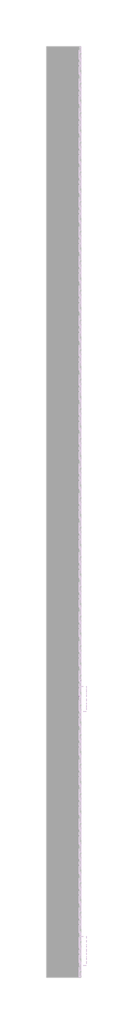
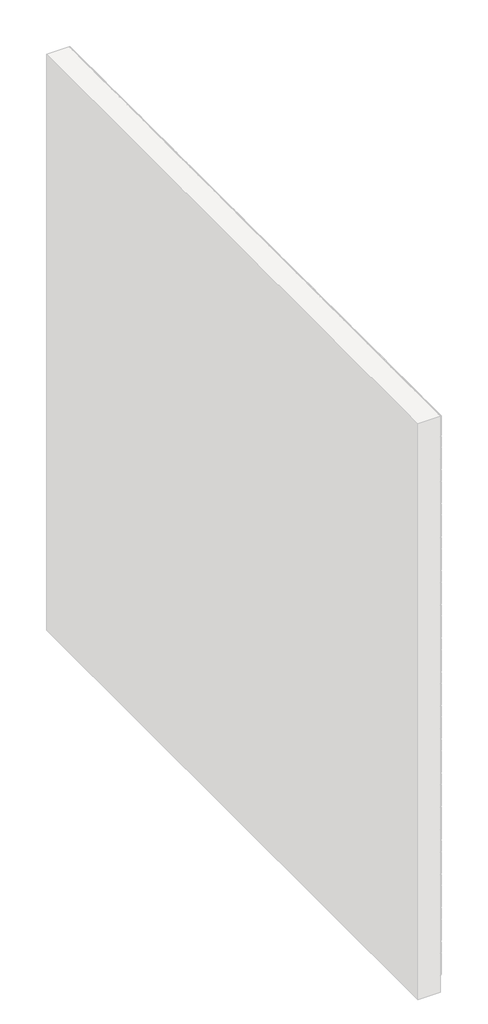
# One storey, part 11 of 121: 145 proxies.
"""IFC4 building model written with IfcOpenShell, lengths in millimetres."""

from ifc_helpers import new_model, si_unit, origin, place, context, project, spatial, transform, mapped, element, save
from components import generic_models_b2b2c5c1, generic_models_9bf73f6f, generic_models_5d175859

model = new_model("IFC4")

# Units and contexts
model_context = context("Model", 3, world=origin())
ifc_project = project(units=[si_unit("LENGTHUNIT", "METRE", prefix="MILLI")], contexts=[model_context])

# Site, building, storey
site = spatial("IfcSite", under=ifc_project)
building = spatial("IfcBuilding", under=site)
storey = spatial("IfcBuildingStorey", under=building, Name="PORTOBELLO - SHOWROOM", Elevation=0.0)

# Proxies
placement = place(None, origin())
generic_models_shape = generic_models_b2b2c5c1(model_context)
element("IfcBuildingElementProxy", 1, Name="PBSHOP - CUBICA ARGENTO 4,8X8,3 : CUBICA ARGENTO - POSIÇÃO 01", ObjectType="PBSHOP - CUBICA ARGENTO 4,8X8,3 : CUBICA ARGENTO - POSIÇÃO 01", at=placement, inside=storey, context=model_context, shape_type="MappedRepresentation", body=[
    mapped(generic_models_shape, transform((150369.5341846, -5631.3184659, 2170.6574029), x_axis=(0.0, 1.0, 0.0), y_axis=(0.0, 0.0, 1.0), z_axis=(1.0, 0.0, 0.0))),
])
element("IfcBuildingElementProxy", 2, Name="PBSHOP - CUBICA ARGENTO 4,8X8,3 : CUBICA ARGENTO - POSIÇÃO 01", ObjectType="PBSHOP - CUBICA ARGENTO 4,8X8,3 : CUBICA ARGENTO - POSIÇÃO 01", at=placement, inside=storey, context=model_context, shape_type="MappedRepresentation", body=[
    mapped(generic_models_shape, transform((150369.5341846, -5540.4791966, 2170.6574029), x_axis=(0.0, 1.0, 0.0), y_axis=(0.0, 0.0, 1.0), z_axis=(1.0, 0.0, 0.0))),
])
element("IfcBuildingElementProxy", 3, Name="PBSHOP - CUBICA ARGENTO 4,8X8,3 : CUBICA ARGENTO - POSIÇÃO 01", ObjectType="PBSHOP - CUBICA ARGENTO 4,8X8,3 : CUBICA ARGENTO - POSIÇÃO 01", at=placement, inside=storey, context=model_context, shape_type="MappedRepresentation", body=[
    mapped(generic_models_shape, transform((150369.5341846, -5449.6399274, 2170.6574029), x_axis=(0.0, 1.0, 0.0), y_axis=(0.0, 0.0, 1.0), z_axis=(1.0, 0.0, 0.0))),
])
element("IfcBuildingElementProxy", 4, Name="PBSHOP - CUBICA ARGENTO 4,8X8,3 : CUBICA ARGENTO - POSIÇÃO 01", ObjectType="PBSHOP - CUBICA ARGENTO 4,8X8,3 : CUBICA ARGENTO - POSIÇÃO 01", at=placement, inside=storey, context=model_context, shape_type="MappedRepresentation", body=[
    mapped(generic_models_shape, transform((150369.5341846, -5358.8006581, 2170.6574029), x_axis=(0.0, 1.0, 0.0), y_axis=(0.0, 0.0, 1.0), z_axis=(1.0, 0.0, 0.0))),
])
element("IfcBuildingElementProxy", 5, Name="PBSHOP - CUBICA ARGENTO 4,8X8,3 : CUBICA ARGENTO - POSIÇÃO 01", ObjectType="PBSHOP - CUBICA ARGENTO 4,8X8,3 : CUBICA ARGENTO - POSIÇÃO 01", at=placement, inside=storey, context=model_context, shape_type="MappedRepresentation", body=[
    mapped(generic_models_shape, transform((150369.5341846, -5267.9613889, 2170.6574029), x_axis=(0.0, 1.0, 0.0), y_axis=(0.0, 0.0, 1.0), z_axis=(1.0, 0.0, 0.0))),
])
element("IfcBuildingElementProxy", 6, Name="PBSHOP - CUBICA ARGENTO 4,8X8,3 : CUBICA ARGENTO - POSIÇÃO 01", ObjectType="PBSHOP - CUBICA ARGENTO 4,8X8,3 : CUBICA ARGENTO - POSIÇÃO 01", at=placement, inside=storey, context=model_context, shape_type="MappedRepresentation", body=[
    mapped(generic_models_shape, transform((150369.5341846, -5177.1221196, 2170.6574029), x_axis=(0.0, 1.0, 0.0), y_axis=(0.0, 0.0, 1.0), z_axis=(1.0, 0.0, 0.0))),
])
element("IfcBuildingElementProxy", 7, Name="PBSHOP - CUBICA ARGENTO 4,8X8,3 : CUBICA ARGENTO - POSIÇÃO 01", ObjectType="PBSHOP - CUBICA ARGENTO 4,8X8,3 : CUBICA ARGENTO - POSIÇÃO 01", at=placement, inside=storey, context=model_context, shape_type="MappedRepresentation", body=[
    mapped(generic_models_shape, transform((150369.5341846, -5086.2828504, 2170.6574029), x_axis=(0.0, 1.0, 0.0), y_axis=(0.0, 0.0, 1.0), z_axis=(1.0, 0.0, 0.0))),
])
element("IfcBuildingElementProxy", 8, Name="PBSHOP - CUBICA ARGENTO 4,8X8,3 : CUBICA ARGENTO - POSIÇÃO 01", ObjectType="PBSHOP - CUBICA ARGENTO 4,8X8,3 : CUBICA ARGENTO - POSIÇÃO 01", at=placement, inside=storey, context=model_context, shape_type="MappedRepresentation", body=[
    mapped(generic_models_shape, transform((150369.5341846, -5949.2559082, 2249.5920413), x_axis=(0.0, 1.0, 0.0), y_axis=(0.0, 0.0, 1.0), z_axis=(1.0, 0.0, 0.0))),
])
element("IfcBuildingElementProxy", 9, Name="PBSHOP - CUBICA ARGENTO 4,8X8,3 : CUBICA ARGENTO - POSIÇÃO 01", ObjectType="PBSHOP - CUBICA ARGENTO 4,8X8,3 : CUBICA ARGENTO - POSIÇÃO 01", at=placement, inside=storey, context=model_context, shape_type="MappedRepresentation", body=[
    mapped(generic_models_shape, transform((150369.5341846, -5858.416639, 2249.5920413), x_axis=(0.0, 1.0, 0.0), y_axis=(0.0, 0.0, 1.0), z_axis=(1.0, 0.0, 0.0))),
])
element("IfcBuildingElementProxy", 10, Name="PBSHOP - CUBICA ARGENTO 4,8X8,3 : CUBICA ARGENTO - POSIÇÃO 01", ObjectType="PBSHOP - CUBICA ARGENTO 4,8X8,3 : CUBICA ARGENTO - POSIÇÃO 01", at=placement, inside=storey, context=model_context, shape_type="MappedRepresentation", body=[
    mapped(generic_models_shape, transform((150369.5341846, -5767.5773697, 2249.5920413), x_axis=(0.0, 1.0, 0.0), y_axis=(0.0, 0.0, 1.0), z_axis=(1.0, 0.0, 0.0))),
])
element("IfcBuildingElementProxy", 11, Name="PBSHOP - CUBICA ARGENTO 4,8X8,3 : CUBICA ARGENTO - POSIÇÃO 01", ObjectType="PBSHOP - CUBICA ARGENTO 4,8X8,3 : CUBICA ARGENTO - POSIÇÃO 01", at=placement, inside=storey, context=model_context, shape_type="MappedRepresentation", body=[
    mapped(generic_models_shape, transform((150369.5341846, -5676.7381005, 2249.5920413), x_axis=(0.0, 1.0, 0.0), y_axis=(0.0, 0.0, 1.0), z_axis=(1.0, 0.0, 0.0))),
])
element("IfcBuildingElementProxy", 12, Name="PBSHOP - CUBICA ARGENTO 4,8X8,3 : CUBICA ARGENTO - POSIÇÃO 01", ObjectType="PBSHOP - CUBICA ARGENTO 4,8X8,3 : CUBICA ARGENTO - POSIÇÃO 01", at=placement, inside=storey, context=model_context, shape_type="MappedRepresentation", body=[
    mapped(generic_models_shape, transform((150369.5341846, -5585.8988312, 2249.5920413), x_axis=(0.0, 1.0, 0.0), y_axis=(0.0, 0.0, 1.0), z_axis=(1.0, 0.0, 0.0))),
])
element("IfcBuildingElementProxy", 13, Name="PBSHOP - CUBICA ARGENTO 4,8X8,3 : CUBICA ARGENTO - POSIÇÃO 01", ObjectType="PBSHOP - CUBICA ARGENTO 4,8X8,3 : CUBICA ARGENTO - POSIÇÃO 01", at=placement, inside=storey, context=model_context, shape_type="MappedRepresentation", body=[
    mapped(generic_models_shape, transform((150369.5341846, -5495.059562, 2249.5920413), x_axis=(0.0, 1.0, 0.0), y_axis=(0.0, 0.0, 1.0), z_axis=(1.0, 0.0, 0.0))),
])
element("IfcBuildingElementProxy", 14, Name="PBSHOP - CUBICA ARGENTO 4,8X8,3 : CUBICA ARGENTO - POSIÇÃO 01", ObjectType="PBSHOP - CUBICA ARGENTO 4,8X8,3 : CUBICA ARGENTO - POSIÇÃO 01", at=placement, inside=storey, context=model_context, shape_type="MappedRepresentation", body=[
    mapped(generic_models_shape, transform((150369.5341846, -5404.2202927, 2249.5920413), x_axis=(0.0, 1.0, 0.0), y_axis=(0.0, 0.0, 1.0), z_axis=(1.0, 0.0, 0.0))),
])
element("IfcBuildingElementProxy", 15, Name="PBSHOP - CUBICA ARGENTO 4,8X8,3 : CUBICA ARGENTO - POSIÇÃO 01", ObjectType="PBSHOP - CUBICA ARGENTO 4,8X8,3 : CUBICA ARGENTO - POSIÇÃO 01", at=placement, inside=storey, context=model_context, shape_type="MappedRepresentation", body=[
    mapped(generic_models_shape, transform((150369.5341846, -5313.3810235, 2249.5920413), x_axis=(0.0, 1.0, 0.0), y_axis=(0.0, 0.0, 1.0), z_axis=(1.0, 0.0, 0.0))),
])
element("IfcBuildingElementProxy", 16, Name="PBSHOP - CUBICA ARGENTO 4,8X8,3 : CUBICA ARGENTO - POSIÇÃO 01", ObjectType="PBSHOP - CUBICA ARGENTO 4,8X8,3 : CUBICA ARGENTO - POSIÇÃO 01", at=placement, inside=storey, context=model_context, shape_type="MappedRepresentation", body=[
    mapped(generic_models_shape, transform((150369.5341846, -5222.5417543, 2249.5920413), x_axis=(0.0, 1.0, 0.0), y_axis=(0.0, 0.0, 1.0), z_axis=(1.0, 0.0, 0.0))),
])
element("IfcBuildingElementProxy", 17, Name="PBSHOP - CUBICA ARGENTO 4,8X8,3 : CUBICA ARGENTO - POSIÇÃO 01", ObjectType="PBSHOP - CUBICA ARGENTO 4,8X8,3 : CUBICA ARGENTO - POSIÇÃO 01", at=placement, inside=storey, context=model_context, shape_type="MappedRepresentation", body=[
    mapped(generic_models_shape, transform((150369.5341846, -5131.702485, 2249.5920413), x_axis=(0.0, 1.0, 0.0), y_axis=(0.0, 0.0, 1.0), z_axis=(1.0, 0.0, 0.0))),
])
element("IfcBuildingElementProxy", 18, Name="PBSHOP - CUBICA ARGENTO 4,8X8,3 : CUBICA ARGENTO - POSIÇÃO 01", ObjectType="PBSHOP - CUBICA ARGENTO 4,8X8,3 : CUBICA ARGENTO - POSIÇÃO 01", at=placement, inside=storey, context=model_context, shape_type="MappedRepresentation", body=[
    mapped(generic_models_shape, transform((150369.5341846, -5040.8632158, 2249.5920413), x_axis=(0.0, 1.0, 0.0), y_axis=(0.0, 0.0, 1.0), z_axis=(1.0, 0.0, 0.0))),
])
element("IfcBuildingElementProxy", 19, Name="PBSHOP - CUBICA ARGENTO 4,8X8,3 : CUBICA ARGENTO - POSIÇÃO 01", ObjectType="PBSHOP - CUBICA ARGENTO 4,8X8,3 : CUBICA ARGENTO - POSIÇÃO 01", at=placement, inside=storey, context=model_context, shape_type="MappedRepresentation", body=[
    mapped(generic_models_shape, transform((150369.5341846, -5994.6755428, 2328.5266797), x_axis=(0.0, 1.0, 0.0), y_axis=(0.0, 0.0, 1.0), z_axis=(1.0, 0.0, 0.0))),
])
element("IfcBuildingElementProxy", 20, Name="PBSHOP - CUBICA ARGENTO 4,8X8,3 : CUBICA ARGENTO - POSIÇÃO 01", ObjectType="PBSHOP - CUBICA ARGENTO 4,8X8,3 : CUBICA ARGENTO - POSIÇÃO 01", at=placement, inside=storey, context=model_context, shape_type="MappedRepresentation", body=[
    mapped(generic_models_shape, transform((150369.5341846, -5903.8362736, 2328.5266797), x_axis=(0.0, 1.0, 0.0), y_axis=(0.0, 0.0, 1.0), z_axis=(1.0, 0.0, 0.0))),
])
element("IfcBuildingElementProxy", 21, Name="PBSHOP - CUBICA ARGENTO 4,8X8,3 : CUBICA ARGENTO - POSIÇÃO 01", ObjectType="PBSHOP - CUBICA ARGENTO 4,8X8,3 : CUBICA ARGENTO - POSIÇÃO 01", at=placement, inside=storey, context=model_context, shape_type="MappedRepresentation", body=[
    mapped(generic_models_shape, transform((150369.5341846, -5812.9970043, 2328.5266797), x_axis=(0.0, 1.0, 0.0), y_axis=(0.0, 0.0, 1.0), z_axis=(1.0, 0.0, 0.0))),
])
element("IfcBuildingElementProxy", 22, Name="PBSHOP - CUBICA ARGENTO 4,8X8,3 : CUBICA ARGENTO - POSIÇÃO 01", ObjectType="PBSHOP - CUBICA ARGENTO 4,8X8,3 : CUBICA ARGENTO - POSIÇÃO 01", at=placement, inside=storey, context=model_context, shape_type="MappedRepresentation", body=[
    mapped(generic_models_shape, transform((150369.5341846, -5722.1577351, 2328.5266797), x_axis=(0.0, 1.0, 0.0), y_axis=(0.0, 0.0, 1.0), z_axis=(1.0, 0.0, 0.0))),
])
element("IfcBuildingElementProxy", 23, Name="PBSHOP - CUBICA ARGENTO 4,8X8,3 : CUBICA ARGENTO - POSIÇÃO 01", ObjectType="PBSHOP - CUBICA ARGENTO 4,8X8,3 : CUBICA ARGENTO - POSIÇÃO 01", at=placement, inside=storey, context=model_context, shape_type="MappedRepresentation", body=[
    mapped(generic_models_shape, transform((150369.5341846, -5631.3184659, 2328.5266797), x_axis=(0.0, 1.0, 0.0), y_axis=(0.0, 0.0, 1.0), z_axis=(1.0, 0.0, 0.0))),
])
element("IfcBuildingElementProxy", 24, Name="PBSHOP - CUBICA ARGENTO 4,8X8,3 : CUBICA ARGENTO - POSIÇÃO 01", ObjectType="PBSHOP - CUBICA ARGENTO 4,8X8,3 : CUBICA ARGENTO - POSIÇÃO 01", at=placement, inside=storey, context=model_context, shape_type="MappedRepresentation", body=[
    mapped(generic_models_shape, transform((150369.5341846, -5540.4791966, 2328.5266797), x_axis=(0.0, 1.0, 0.0), y_axis=(0.0, 0.0, 1.0), z_axis=(1.0, 0.0, 0.0))),
])
element("IfcBuildingElementProxy", 25, Name="PBSHOP - CUBICA ARGENTO 4,8X8,3 : CUBICA ARGENTO - POSIÇÃO 01", ObjectType="PBSHOP - CUBICA ARGENTO 4,8X8,3 : CUBICA ARGENTO - POSIÇÃO 01", at=placement, inside=storey, context=model_context, shape_type="MappedRepresentation", body=[
    mapped(generic_models_shape, transform((150369.5341846, -5449.6399274, 2328.5266797), x_axis=(0.0, 1.0, 0.0), y_axis=(0.0, 0.0, 1.0), z_axis=(1.0, 0.0, 0.0))),
])
element("IfcBuildingElementProxy", 26, Name="PBSHOP - CUBICA ARGENTO 4,8X8,3 : CUBICA ARGENTO - POSIÇÃO 01", ObjectType="PBSHOP - CUBICA ARGENTO 4,8X8,3 : CUBICA ARGENTO - POSIÇÃO 01", at=placement, inside=storey, context=model_context, shape_type="MappedRepresentation", body=[
    mapped(generic_models_shape, transform((150369.5341846, -5358.8006581, 2328.5266797), x_axis=(0.0, 1.0, 0.0), y_axis=(0.0, 0.0, 1.0), z_axis=(1.0, 0.0, 0.0))),
])
element("IfcBuildingElementProxy", 27, Name="PBSHOP - CUBICA ARGENTO 4,8X8,3 : CUBICA ARGENTO - POSIÇÃO 01", ObjectType="PBSHOP - CUBICA ARGENTO 4,8X8,3 : CUBICA ARGENTO - POSIÇÃO 01", at=placement, inside=storey, context=model_context, shape_type="MappedRepresentation", body=[
    mapped(generic_models_shape, transform((150369.5341846, -5267.9613889, 2328.5266797), x_axis=(0.0, 1.0, 0.0), y_axis=(0.0, 0.0, 1.0), z_axis=(1.0, 0.0, 0.0))),
])
element("IfcBuildingElementProxy", 28, Name="PBSHOP - CUBICA ARGENTO 4,8X8,3 : CUBICA ARGENTO - POSIÇÃO 01", ObjectType="PBSHOP - CUBICA ARGENTO 4,8X8,3 : CUBICA ARGENTO - POSIÇÃO 01", at=placement, inside=storey, context=model_context, shape_type="MappedRepresentation", body=[
    mapped(generic_models_shape, transform((150369.5341846, -5177.1221196, 2328.5266797), x_axis=(0.0, 1.0, 0.0), y_axis=(0.0, 0.0, 1.0), z_axis=(1.0, 0.0, 0.0))),
])
element("IfcBuildingElementProxy", 29, Name="PBSHOP - CUBICA ARGENTO 4,8X8,3 : CUBICA ARGENTO - POSIÇÃO 01", ObjectType="PBSHOP - CUBICA ARGENTO 4,8X8,3 : CUBICA ARGENTO - POSIÇÃO 01", at=placement, inside=storey, context=model_context, shape_type="MappedRepresentation", body=[
    mapped(generic_models_shape, transform((150369.5341846, -5086.2828504, 2328.5266797), x_axis=(0.0, 1.0, 0.0), y_axis=(0.0, 0.0, 1.0), z_axis=(1.0, 0.0, 0.0))),
])
element("IfcBuildingElementProxy", 30, Name="PBSHOP - CUBICA ARGENTO 4,8X8,3 : CUBICA ARGENTO - POSIÇÃO 01", ObjectType="PBSHOP - CUBICA ARGENTO 4,8X8,3 : CUBICA ARGENTO - POSIÇÃO 01", at=placement, inside=storey, context=model_context, shape_type="MappedRepresentation", body=[
    mapped(generic_models_shape, transform((150369.5341846, -5949.2559082, 2407.461318), x_axis=(0.0, 1.0, 0.0), y_axis=(0.0, 0.0, 1.0), z_axis=(1.0, 0.0, 0.0))),
])
element("IfcBuildingElementProxy", 31, Name="PBSHOP - CUBICA ARGENTO 4,8X8,3 : CUBICA ARGENTO - POSIÇÃO 01", ObjectType="PBSHOP - CUBICA ARGENTO 4,8X8,3 : CUBICA ARGENTO - POSIÇÃO 01", at=placement, inside=storey, context=model_context, shape_type="MappedRepresentation", body=[
    mapped(generic_models_shape, transform((150369.5341846, -5858.416639, 2407.461318), x_axis=(0.0, 1.0, 0.0), y_axis=(0.0, 0.0, 1.0), z_axis=(1.0, 0.0, 0.0))),
])
element("IfcBuildingElementProxy", 32, Name="PBSHOP - CUBICA ARGENTO 4,8X8,3 : CUBICA ARGENTO - POSIÇÃO 01", ObjectType="PBSHOP - CUBICA ARGENTO 4,8X8,3 : CUBICA ARGENTO - POSIÇÃO 01", at=placement, inside=storey, context=model_context, shape_type="MappedRepresentation", body=[
    mapped(generic_models_shape, transform((150369.5341846, -5767.5773697, 2407.461318), x_axis=(0.0, 1.0, 0.0), y_axis=(0.0, 0.0, 1.0), z_axis=(1.0, 0.0, 0.0))),
])
element("IfcBuildingElementProxy", 33, Name="PBSHOP - CUBICA ARGENTO 4,8X8,3 : CUBICA ARGENTO - POSIÇÃO 01", ObjectType="PBSHOP - CUBICA ARGENTO 4,8X8,3 : CUBICA ARGENTO - POSIÇÃO 01", at=placement, inside=storey, context=model_context, shape_type="MappedRepresentation", body=[
    mapped(generic_models_shape, transform((150369.5341846, -5676.7381005, 2407.461318), x_axis=(0.0, 1.0, 0.0), y_axis=(0.0, 0.0, 1.0), z_axis=(1.0, 0.0, 0.0))),
])
element("IfcBuildingElementProxy", 34, Name="PBSHOP - CUBICA ARGENTO 4,8X8,3 : CUBICA ARGENTO - POSIÇÃO 01", ObjectType="PBSHOP - CUBICA ARGENTO 4,8X8,3 : CUBICA ARGENTO - POSIÇÃO 01", at=placement, inside=storey, context=model_context, shape_type="MappedRepresentation", body=[
    mapped(generic_models_shape, transform((150369.5341846, -5585.8988312, 2407.461318), x_axis=(0.0, 1.0, 0.0), y_axis=(0.0, 0.0, 1.0), z_axis=(1.0, 0.0, 0.0))),
])
element("IfcBuildingElementProxy", 35, Name="PBSHOP - CUBICA ARGENTO 4,8X8,3 : CUBICA ARGENTO - POSIÇÃO 01", ObjectType="PBSHOP - CUBICA ARGENTO 4,8X8,3 : CUBICA ARGENTO - POSIÇÃO 01", at=placement, inside=storey, context=model_context, shape_type="MappedRepresentation", body=[
    mapped(generic_models_shape, transform((150369.5341846, -5495.059562, 2407.461318), x_axis=(0.0, 1.0, 0.0), y_axis=(0.0, 0.0, 1.0), z_axis=(1.0, 0.0, 0.0))),
])
element("IfcBuildingElementProxy", 36, Name="PBSHOP - CUBICA ARGENTO 4,8X8,3 : CUBICA ARGENTO - POSIÇÃO 01", ObjectType="PBSHOP - CUBICA ARGENTO 4,8X8,3 : CUBICA ARGENTO - POSIÇÃO 01", at=placement, inside=storey, context=model_context, shape_type="MappedRepresentation", body=[
    mapped(generic_models_shape, transform((150369.5341846, -5404.2202927, 2407.461318), x_axis=(0.0, 1.0, 0.0), y_axis=(0.0, 0.0, 1.0), z_axis=(1.0, 0.0, 0.0))),
])
element("IfcBuildingElementProxy", 37, Name="PBSHOP - CUBICA ARGENTO 4,8X8,3 : CUBICA ARGENTO - POSIÇÃO 01", ObjectType="PBSHOP - CUBICA ARGENTO 4,8X8,3 : CUBICA ARGENTO - POSIÇÃO 01", at=placement, inside=storey, context=model_context, shape_type="MappedRepresentation", body=[
    mapped(generic_models_shape, transform((150369.5341846, -5313.3810235, 2407.461318), x_axis=(0.0, 1.0, 0.0), y_axis=(0.0, 0.0, 1.0), z_axis=(1.0, 0.0, 0.0))),
])
element("IfcBuildingElementProxy", 38, Name="PBSHOP - CUBICA ARGENTO 4,8X8,3 : CUBICA ARGENTO - POSIÇÃO 01", ObjectType="PBSHOP - CUBICA ARGENTO 4,8X8,3 : CUBICA ARGENTO - POSIÇÃO 01", at=placement, inside=storey, context=model_context, shape_type="MappedRepresentation", body=[
    mapped(generic_models_shape, transform((150369.5341846, -5222.5417543, 2407.461318), x_axis=(0.0, 1.0, 0.0), y_axis=(0.0, 0.0, 1.0), z_axis=(1.0, 0.0, 0.0))),
])
element("IfcBuildingElementProxy", 39, Name="PBSHOP - CUBICA ARGENTO 4,8X8,3 : CUBICA ARGENTO - POSIÇÃO 01", ObjectType="PBSHOP - CUBICA ARGENTO 4,8X8,3 : CUBICA ARGENTO - POSIÇÃO 01", at=placement, inside=storey, context=model_context, shape_type="MappedRepresentation", body=[
    mapped(generic_models_shape, transform((150369.5341846, -5131.702485, 2407.461318), x_axis=(0.0, 1.0, 0.0), y_axis=(0.0, 0.0, 1.0), z_axis=(1.0, 0.0, 0.0))),
])
element("IfcBuildingElementProxy", 40, Name="PBSHOP - CUBICA ARGENTO 4,8X8,3 : CUBICA ARGENTO - POSIÇÃO 01", ObjectType="PBSHOP - CUBICA ARGENTO 4,8X8,3 : CUBICA ARGENTO - POSIÇÃO 01", at=placement, inside=storey, context=model_context, shape_type="MappedRepresentation", body=[
    mapped(generic_models_shape, transform((150369.5341846, -5040.8632158, 2407.461318), x_axis=(0.0, 1.0, 0.0), y_axis=(0.0, 0.0, 1.0), z_axis=(1.0, 0.0, 0.0))),
])
element("IfcBuildingElementProxy", 41, Name="PBSHOP - CUBICA ARGENTO 4,8X8,3 : CUBICA ARGENTO - POSIÇÃO 01", ObjectType="PBSHOP - CUBICA ARGENTO 4,8X8,3 : CUBICA ARGENTO - POSIÇÃO 01", at=placement, inside=storey, context=model_context, shape_type="MappedRepresentation", body=[
    mapped(generic_models_shape, transform((150369.5341846, -5994.6755428, 2486.3959564), x_axis=(0.0, 1.0, 0.0), y_axis=(0.0, 0.0, 1.0), z_axis=(1.0, 0.0, 0.0))),
])
element("IfcBuildingElementProxy", 42, Name="PBSHOP - CUBICA ARGENTO 4,8X8,3 : CUBICA ARGENTO - POSIÇÃO 01", ObjectType="PBSHOP - CUBICA ARGENTO 4,8X8,3 : CUBICA ARGENTO - POSIÇÃO 01", at=placement, inside=storey, context=model_context, shape_type="MappedRepresentation", body=[
    mapped(generic_models_shape, transform((150369.5341846, -5903.8362736, 2486.3959564), x_axis=(0.0, 1.0, 0.0), y_axis=(0.0, 0.0, 1.0), z_axis=(1.0, 0.0, 0.0))),
])
element("IfcBuildingElementProxy", 43, Name="PBSHOP - CUBICA ARGENTO 4,8X8,3 : CUBICA ARGENTO - POSIÇÃO 01", ObjectType="PBSHOP - CUBICA ARGENTO 4,8X8,3 : CUBICA ARGENTO - POSIÇÃO 01", at=placement, inside=storey, context=model_context, shape_type="MappedRepresentation", body=[
    mapped(generic_models_shape, transform((150369.5341846, -5812.9970043, 2486.3959564), x_axis=(0.0, 1.0, 0.0), y_axis=(0.0, 0.0, 1.0), z_axis=(1.0, 0.0, 0.0))),
])
element("IfcBuildingElementProxy", 44, Name="PBSHOP - CUBICA ARGENTO 4,8X8,3 : CUBICA ARGENTO - POSIÇÃO 01", ObjectType="PBSHOP - CUBICA ARGENTO 4,8X8,3 : CUBICA ARGENTO - POSIÇÃO 01", at=placement, inside=storey, context=model_context, shape_type="MappedRepresentation", body=[
    mapped(generic_models_shape, transform((150369.5341846, -5722.1577351, 2486.3959564), x_axis=(0.0, 1.0, 0.0), y_axis=(0.0, 0.0, 1.0), z_axis=(1.0, 0.0, 0.0))),
])
element("IfcBuildingElementProxy", 45, Name="PBSHOP - CUBICA ARGENTO 4,8X8,3 : CUBICA ARGENTO - POSIÇÃO 01", ObjectType="PBSHOP - CUBICA ARGENTO 4,8X8,3 : CUBICA ARGENTO - POSIÇÃO 01", at=placement, inside=storey, context=model_context, shape_type="MappedRepresentation", body=[
    mapped(generic_models_shape, transform((150369.5341846, -5631.3184659, 2486.3959564), x_axis=(0.0, 1.0, 0.0), y_axis=(0.0, 0.0, 1.0), z_axis=(1.0, 0.0, 0.0))),
])
element("IfcBuildingElementProxy", 46, Name="PBSHOP - CUBICA ARGENTO 4,8X8,3 : CUBICA ARGENTO - POSIÇÃO 01", ObjectType="PBSHOP - CUBICA ARGENTO 4,8X8,3 : CUBICA ARGENTO - POSIÇÃO 01", at=placement, inside=storey, context=model_context, shape_type="MappedRepresentation", body=[
    mapped(generic_models_shape, transform((150369.5341846, -5540.4791966, 2486.3959564), x_axis=(0.0, 1.0, 0.0), y_axis=(0.0, 0.0, 1.0), z_axis=(1.0, 0.0, 0.0))),
])
element("IfcBuildingElementProxy", 47, Name="PBSHOP - CUBICA ARGENTO 4,8X8,3 : CUBICA ARGENTO - POSIÇÃO 01", ObjectType="PBSHOP - CUBICA ARGENTO 4,8X8,3 : CUBICA ARGENTO - POSIÇÃO 01", at=placement, inside=storey, context=model_context, shape_type="MappedRepresentation", body=[
    mapped(generic_models_shape, transform((150369.5341846, -5449.6399274, 2486.3959564), x_axis=(0.0, 1.0, 0.0), y_axis=(0.0, 0.0, 1.0), z_axis=(1.0, 0.0, 0.0))),
])
element("IfcBuildingElementProxy", 48, Name="PBSHOP - CUBICA ARGENTO 4,8X8,3 : CUBICA ARGENTO - POSIÇÃO 01", ObjectType="PBSHOP - CUBICA ARGENTO 4,8X8,3 : CUBICA ARGENTO - POSIÇÃO 01", at=placement, inside=storey, context=model_context, shape_type="MappedRepresentation", body=[
    mapped(generic_models_shape, transform((150369.5341846, -5358.8006581, 2486.3959564), x_axis=(0.0, 1.0, 0.0), y_axis=(0.0, 0.0, 1.0), z_axis=(1.0, 0.0, 0.0))),
])
element("IfcBuildingElementProxy", 49, Name="PBSHOP - CUBICA ARGENTO 4,8X8,3 : CUBICA ARGENTO - POSIÇÃO 01", ObjectType="PBSHOP - CUBICA ARGENTO 4,8X8,3 : CUBICA ARGENTO - POSIÇÃO 01", at=placement, inside=storey, context=model_context, shape_type="MappedRepresentation", body=[
    mapped(generic_models_shape, transform((150369.5341846, -5267.9613889, 2486.3959564), x_axis=(0.0, 1.0, 0.0), y_axis=(0.0, 0.0, 1.0), z_axis=(1.0, 0.0, 0.0))),
])
element("IfcBuildingElementProxy", 50, Name="PBSHOP - CUBICA ARGENTO 4,8X8,3 : CUBICA ARGENTO - POSIÇÃO 01", ObjectType="PBSHOP - CUBICA ARGENTO 4,8X8,3 : CUBICA ARGENTO - POSIÇÃO 01", at=placement, inside=storey, context=model_context, shape_type="MappedRepresentation", body=[
    mapped(generic_models_shape, transform((150369.5341846, -5177.1221196, 2486.3959564), x_axis=(0.0, 1.0, 0.0), y_axis=(0.0, 0.0, 1.0), z_axis=(1.0, 0.0, 0.0))),
])
element("IfcBuildingElementProxy", 51, Name="PBSHOP - CUBICA ARGENTO 4,8X8,3 : CUBICA ARGENTO - POSIÇÃO 01", ObjectType="PBSHOP - CUBICA ARGENTO 4,8X8,3 : CUBICA ARGENTO - POSIÇÃO 01", at=placement, inside=storey, context=model_context, shape_type="MappedRepresentation", body=[
    mapped(generic_models_shape, transform((150369.5341846, -5086.2828504, 2486.3959564), x_axis=(0.0, 1.0, 0.0), y_axis=(0.0, 0.0, 1.0), z_axis=(1.0, 0.0, 0.0))),
])
generic_models_2_shape = generic_models_9bf73f6f(model_context)
element("IfcBuildingElementProxy", 52, Name="PBSHOP - CUBICA ARGENTO 4,8X8,3 : CUBICA ARGENTO - POSIÇÃO 03", ObjectType="PBSHOP - CUBICA ARGENTO 4,8X8,3 : CUBICA ARGENTO - POSIÇÃO 03", at=placement, inside=storey, context=model_context, shape_type="MappedRepresentation", body=[
    mapped(generic_models_2_shape, transform((150369.5341846, -5926.5439317, 2131.1488733), x_axis=(0.0, 1.0, 0.0), y_axis=(0.0, 0.0, 1.0), z_axis=(1.0, 0.0, 0.0))),
])
element("IfcBuildingElementProxy", 53, Name="PBSHOP - CUBICA ARGENTO 4,8X8,3 : CUBICA ARGENTO - POSIÇÃO 03", ObjectType="PBSHOP - CUBICA ARGENTO 4,8X8,3 : CUBICA ARGENTO - POSIÇÃO 03", at=placement, inside=storey, context=model_context, shape_type="MappedRepresentation", body=[
    mapped(generic_models_2_shape, transform((150369.5341846, -5835.7046625, 2131.1488733), x_axis=(0.0, 1.0, 0.0), y_axis=(0.0, 0.0, 1.0), z_axis=(1.0, 0.0, 0.0))),
])
element("IfcBuildingElementProxy", 54, Name="PBSHOP - CUBICA ARGENTO 4,8X8,3 : CUBICA ARGENTO - POSIÇÃO 03", ObjectType="PBSHOP - CUBICA ARGENTO 4,8X8,3 : CUBICA ARGENTO - POSIÇÃO 03", at=placement, inside=storey, context=model_context, shape_type="MappedRepresentation", body=[
    mapped(generic_models_2_shape, transform((150369.5341846, -5744.8653932, 2131.1488733), x_axis=(0.0, 1.0, 0.0), y_axis=(0.0, 0.0, 1.0), z_axis=(1.0, 0.0, 0.0))),
])
element("IfcBuildingElementProxy", 55, Name="PBSHOP - CUBICA ARGENTO 4,8X8,3 : CUBICA ARGENTO - POSIÇÃO 03", ObjectType="PBSHOP - CUBICA ARGENTO 4,8X8,3 : CUBICA ARGENTO - POSIÇÃO 03", at=placement, inside=storey, context=model_context, shape_type="MappedRepresentation", body=[
    mapped(generic_models_2_shape, transform((150369.5341846, -5654.026124, 2131.1488733), x_axis=(0.0, 1.0, 0.0), y_axis=(0.0, 0.0, 1.0), z_axis=(1.0, 0.0, 0.0))),
])
element("IfcBuildingElementProxy", 56, Name="PBSHOP - CUBICA ARGENTO 4,8X8,3 : CUBICA ARGENTO - POSIÇÃO 03", ObjectType="PBSHOP - CUBICA ARGENTO 4,8X8,3 : CUBICA ARGENTO - POSIÇÃO 03", at=placement, inside=storey, context=model_context, shape_type="MappedRepresentation", body=[
    mapped(generic_models_2_shape, transform((150369.5341846, -5563.1868548, 2131.1488733), x_axis=(0.0, 1.0, 0.0), y_axis=(0.0, 0.0, 1.0), z_axis=(1.0, 0.0, 0.0))),
])
element("IfcBuildingElementProxy", 57, Name="PBSHOP - CUBICA ARGENTO 4,8X8,3 : CUBICA ARGENTO - POSIÇÃO 03", ObjectType="PBSHOP - CUBICA ARGENTO 4,8X8,3 : CUBICA ARGENTO - POSIÇÃO 03", at=placement, inside=storey, context=model_context, shape_type="MappedRepresentation", body=[
    mapped(generic_models_2_shape, transform((150369.5341846, -5472.3475855, 2131.1488733), x_axis=(0.0, 1.0, 0.0), y_axis=(0.0, 0.0, 1.0), z_axis=(1.0, 0.0, 0.0))),
])
element("IfcBuildingElementProxy", 58, Name="PBSHOP - CUBICA ARGENTO 4,8X8,3 : CUBICA ARGENTO - POSIÇÃO 03", ObjectType="PBSHOP - CUBICA ARGENTO 4,8X8,3 : CUBICA ARGENTO - POSIÇÃO 03", at=placement, inside=storey, context=model_context, shape_type="MappedRepresentation", body=[
    mapped(generic_models_2_shape, transform((150369.5341846, -5381.5083163, 2131.1488733), x_axis=(0.0, 1.0, 0.0), y_axis=(0.0, 0.0, 1.0), z_axis=(1.0, 0.0, 0.0))),
])
element("IfcBuildingElementProxy", 59, Name="PBSHOP - CUBICA ARGENTO 4,8X8,3 : CUBICA ARGENTO - POSIÇÃO 03", ObjectType="PBSHOP - CUBICA ARGENTO 4,8X8,3 : CUBICA ARGENTO - POSIÇÃO 03", at=placement, inside=storey, context=model_context, shape_type="MappedRepresentation", body=[
    mapped(generic_models_2_shape, transform((150369.5341846, -5290.669047, 2131.1488733), x_axis=(0.0, 1.0, 0.0), y_axis=(0.0, 0.0, 1.0), z_axis=(1.0, 0.0, 0.0))),
])
element("IfcBuildingElementProxy", 60, Name="PBSHOP - CUBICA ARGENTO 4,8X8,3 : CUBICA ARGENTO - POSIÇÃO 03", ObjectType="PBSHOP - CUBICA ARGENTO 4,8X8,3 : CUBICA ARGENTO - POSIÇÃO 03", at=placement, inside=storey, context=model_context, shape_type="MappedRepresentation", body=[
    mapped(generic_models_2_shape, transform((150369.5341846, -5199.8297778, 2131.1488733), x_axis=(0.0, 1.0, 0.0), y_axis=(0.0, 0.0, 1.0), z_axis=(1.0, 0.0, 0.0))),
])
element("IfcBuildingElementProxy", 61, Name="PBSHOP - CUBICA ARGENTO 4,8X8,3 : CUBICA ARGENTO - POSIÇÃO 03", ObjectType="PBSHOP - CUBICA ARGENTO 4,8X8,3 : CUBICA ARGENTO - POSIÇÃO 03", at=placement, inside=storey, context=model_context, shape_type="MappedRepresentation", body=[
    mapped(generic_models_2_shape, transform((150369.5341846, -5108.9905085, 2131.1488733), x_axis=(0.0, 1.0, 0.0), y_axis=(0.0, 0.0, 1.0), z_axis=(1.0, 0.0, 0.0))),
])
element("IfcBuildingElementProxy", 62, Name="PBSHOP - CUBICA ARGENTO 4,8X8,3 : CUBICA ARGENTO - POSIÇÃO 03", ObjectType="PBSHOP - CUBICA ARGENTO 4,8X8,3 : CUBICA ARGENTO - POSIÇÃO 03", at=placement, inside=storey, context=model_context, shape_type="MappedRepresentation", body=[
    mapped(generic_models_2_shape, transform((150369.5341846, -5018.1512393, 2131.1488733), x_axis=(0.0, 1.0, 0.0), y_axis=(0.0, 0.0, 1.0), z_axis=(1.0, 0.0, 0.0))),
])
element("IfcBuildingElementProxy", 63, Name="PBSHOP - CUBICA ARGENTO 4,8X8,3 : CUBICA ARGENTO - POSIÇÃO 03", ObjectType="PBSHOP - CUBICA ARGENTO 4,8X8,3 : CUBICA ARGENTO - POSIÇÃO 03", at=placement, inside=storey, context=model_context, shape_type="MappedRepresentation", body=[
    mapped(generic_models_2_shape, transform((150369.5341846, -5971.9635664, 2210.0835117), x_axis=(0.0, 1.0, 0.0), y_axis=(0.0, 0.0, 1.0), z_axis=(1.0, 0.0, 0.0))),
])
element("IfcBuildingElementProxy", 64, Name="PBSHOP - CUBICA ARGENTO 4,8X8,3 : CUBICA ARGENTO - POSIÇÃO 03", ObjectType="PBSHOP - CUBICA ARGENTO 4,8X8,3 : CUBICA ARGENTO - POSIÇÃO 03", at=placement, inside=storey, context=model_context, shape_type="MappedRepresentation", body=[
    mapped(generic_models_2_shape, transform((150369.5341846, -5881.1242971, 2210.0835117), x_axis=(0.0, 1.0, 0.0), y_axis=(0.0, 0.0, 1.0), z_axis=(1.0, 0.0, 0.0))),
])
element("IfcBuildingElementProxy", 65, Name="PBSHOP - CUBICA ARGENTO 4,8X8,3 : CUBICA ARGENTO - POSIÇÃO 03", ObjectType="PBSHOP - CUBICA ARGENTO 4,8X8,3 : CUBICA ARGENTO - POSIÇÃO 03", at=placement, inside=storey, context=model_context, shape_type="MappedRepresentation", body=[
    mapped(generic_models_2_shape, transform((150369.5341846, -5790.2850279, 2210.0835117), x_axis=(0.0, 1.0, 0.0), y_axis=(0.0, 0.0, 1.0), z_axis=(1.0, 0.0, 0.0))),
])
element("IfcBuildingElementProxy", 66, Name="PBSHOP - CUBICA ARGENTO 4,8X8,3 : CUBICA ARGENTO - POSIÇÃO 03", ObjectType="PBSHOP - CUBICA ARGENTO 4,8X8,3 : CUBICA ARGENTO - POSIÇÃO 03", at=placement, inside=storey, context=model_context, shape_type="MappedRepresentation", body=[
    mapped(generic_models_2_shape, transform((150369.5341846, -5699.4457586, 2210.0835117), x_axis=(0.0, 1.0, 0.0), y_axis=(0.0, 0.0, 1.0), z_axis=(1.0, 0.0, 0.0))),
])
element("IfcBuildingElementProxy", 67, Name="PBSHOP - CUBICA ARGENTO 4,8X8,3 : CUBICA ARGENTO - POSIÇÃO 03", ObjectType="PBSHOP - CUBICA ARGENTO 4,8X8,3 : CUBICA ARGENTO - POSIÇÃO 03", at=placement, inside=storey, context=model_context, shape_type="MappedRepresentation", body=[
    mapped(generic_models_2_shape, transform((150369.5341846, -5608.6064894, 2210.0835117), x_axis=(0.0, 1.0, 0.0), y_axis=(0.0, 0.0, 1.0), z_axis=(1.0, 0.0, 0.0))),
])
element("IfcBuildingElementProxy", 68, Name="PBSHOP - CUBICA ARGENTO 4,8X8,3 : CUBICA ARGENTO - POSIÇÃO 03", ObjectType="PBSHOP - CUBICA ARGENTO 4,8X8,3 : CUBICA ARGENTO - POSIÇÃO 03", at=placement, inside=storey, context=model_context, shape_type="MappedRepresentation", body=[
    mapped(generic_models_2_shape, transform((150369.5341846, -5517.7672201, 2210.0835117), x_axis=(0.0, 1.0, 0.0), y_axis=(0.0, 0.0, 1.0), z_axis=(1.0, 0.0, 0.0))),
])
element("IfcBuildingElementProxy", 69, Name="PBSHOP - CUBICA ARGENTO 4,8X8,3 : CUBICA ARGENTO - POSIÇÃO 03", ObjectType="PBSHOP - CUBICA ARGENTO 4,8X8,3 : CUBICA ARGENTO - POSIÇÃO 03", at=placement, inside=storey, context=model_context, shape_type="MappedRepresentation", body=[
    mapped(generic_models_2_shape, transform((150369.5341846, -5426.9279509, 2210.0835117), x_axis=(0.0, 1.0, 0.0), y_axis=(0.0, 0.0, 1.0), z_axis=(1.0, 0.0, 0.0))),
])
element("IfcBuildingElementProxy", 70, Name="PBSHOP - CUBICA ARGENTO 4,8X8,3 : CUBICA ARGENTO - POSIÇÃO 03", ObjectType="PBSHOP - CUBICA ARGENTO 4,8X8,3 : CUBICA ARGENTO - POSIÇÃO 03", at=placement, inside=storey, context=model_context, shape_type="MappedRepresentation", body=[
    mapped(generic_models_2_shape, transform((150369.5341846, -5336.0886816, 2210.0835117), x_axis=(0.0, 1.0, 0.0), y_axis=(0.0, 0.0, 1.0), z_axis=(1.0, 0.0, 0.0))),
])
element("IfcBuildingElementProxy", 71, Name="PBSHOP - CUBICA ARGENTO 4,8X8,3 : CUBICA ARGENTO - POSIÇÃO 03", ObjectType="PBSHOP - CUBICA ARGENTO 4,8X8,3 : CUBICA ARGENTO - POSIÇÃO 03", at=placement, inside=storey, context=model_context, shape_type="MappedRepresentation", body=[
    mapped(generic_models_2_shape, transform((150369.5341846, -5245.2494124, 2210.0835117), x_axis=(0.0, 1.0, 0.0), y_axis=(0.0, 0.0, 1.0), z_axis=(1.0, 0.0, 0.0))),
])
element("IfcBuildingElementProxy", 72, Name="PBSHOP - CUBICA ARGENTO 4,8X8,3 : CUBICA ARGENTO - POSIÇÃO 03", ObjectType="PBSHOP - CUBICA ARGENTO 4,8X8,3 : CUBICA ARGENTO - POSIÇÃO 03", at=placement, inside=storey, context=model_context, shape_type="MappedRepresentation", body=[
    mapped(generic_models_2_shape, transform((150369.5341846, -5154.4101432, 2210.0835117), x_axis=(0.0, 1.0, 0.0), y_axis=(0.0, 0.0, 1.0), z_axis=(1.0, 0.0, 0.0))),
])
element("IfcBuildingElementProxy", 73, Name="PBSHOP - CUBICA ARGENTO 4,8X8,3 : CUBICA ARGENTO - POSIÇÃO 03", ObjectType="PBSHOP - CUBICA ARGENTO 4,8X8,3 : CUBICA ARGENTO - POSIÇÃO 03", at=placement, inside=storey, context=model_context, shape_type="MappedRepresentation", body=[
    mapped(generic_models_2_shape, transform((150369.5341846, -5063.5708739, 2210.0835117), x_axis=(0.0, 1.0, 0.0), y_axis=(0.0, 0.0, 1.0), z_axis=(1.0, 0.0, 0.0))),
])
element("IfcBuildingElementProxy", 74, Name="PBSHOP - CUBICA ARGENTO 4,8X8,3 : CUBICA ARGENTO - POSIÇÃO 03", ObjectType="PBSHOP - CUBICA ARGENTO 4,8X8,3 : CUBICA ARGENTO - POSIÇÃO 03", at=placement, inside=storey, context=model_context, shape_type="MappedRepresentation", body=[
    mapped(generic_models_2_shape, transform((150369.5341846, -5926.5439317, 2289.0181501), x_axis=(0.0, 1.0, 0.0), y_axis=(0.0, 0.0, 1.0), z_axis=(1.0, 0.0, 0.0))),
])
element("IfcBuildingElementProxy", 75, Name="PBSHOP - CUBICA ARGENTO 4,8X8,3 : CUBICA ARGENTO - POSIÇÃO 03", ObjectType="PBSHOP - CUBICA ARGENTO 4,8X8,3 : CUBICA ARGENTO - POSIÇÃO 03", at=placement, inside=storey, context=model_context, shape_type="MappedRepresentation", body=[
    mapped(generic_models_2_shape, transform((150369.5341846, -5835.7046625, 2289.0181501), x_axis=(0.0, 1.0, 0.0), y_axis=(0.0, 0.0, 1.0), z_axis=(1.0, 0.0, 0.0))),
])
element("IfcBuildingElementProxy", 76, Name="PBSHOP - CUBICA ARGENTO 4,8X8,3 : CUBICA ARGENTO - POSIÇÃO 03", ObjectType="PBSHOP - CUBICA ARGENTO 4,8X8,3 : CUBICA ARGENTO - POSIÇÃO 03", at=placement, inside=storey, context=model_context, shape_type="MappedRepresentation", body=[
    mapped(generic_models_2_shape, transform((150369.5341846, -5744.8653932, 2289.0181501), x_axis=(0.0, 1.0, 0.0), y_axis=(0.0, 0.0, 1.0), z_axis=(1.0, 0.0, 0.0))),
])
element("IfcBuildingElementProxy", 77, Name="PBSHOP - CUBICA ARGENTO 4,8X8,3 : CUBICA ARGENTO - POSIÇÃO 03", ObjectType="PBSHOP - CUBICA ARGENTO 4,8X8,3 : CUBICA ARGENTO - POSIÇÃO 03", at=placement, inside=storey, context=model_context, shape_type="MappedRepresentation", body=[
    mapped(generic_models_2_shape, transform((150369.5341846, -5654.026124, 2289.0181501), x_axis=(0.0, 1.0, 0.0), y_axis=(0.0, 0.0, 1.0), z_axis=(1.0, 0.0, 0.0))),
])
element("IfcBuildingElementProxy", 78, Name="PBSHOP - CUBICA ARGENTO 4,8X8,3 : CUBICA ARGENTO - POSIÇÃO 03", ObjectType="PBSHOP - CUBICA ARGENTO 4,8X8,3 : CUBICA ARGENTO - POSIÇÃO 03", at=placement, inside=storey, context=model_context, shape_type="MappedRepresentation", body=[
    mapped(generic_models_2_shape, transform((150369.5341846, -5563.1868548, 2289.0181501), x_axis=(0.0, 1.0, 0.0), y_axis=(0.0, 0.0, 1.0), z_axis=(1.0, 0.0, 0.0))),
])
element("IfcBuildingElementProxy", 79, Name="PBSHOP - CUBICA ARGENTO 4,8X8,3 : CUBICA ARGENTO - POSIÇÃO 03", ObjectType="PBSHOP - CUBICA ARGENTO 4,8X8,3 : CUBICA ARGENTO - POSIÇÃO 03", at=placement, inside=storey, context=model_context, shape_type="MappedRepresentation", body=[
    mapped(generic_models_2_shape, transform((150369.5341846, -5472.3475855, 2289.0181501), x_axis=(0.0, 1.0, 0.0), y_axis=(0.0, 0.0, 1.0), z_axis=(1.0, 0.0, 0.0))),
])
element("IfcBuildingElementProxy", 80, Name="PBSHOP - CUBICA ARGENTO 4,8X8,3 : CUBICA ARGENTO - POSIÇÃO 03", ObjectType="PBSHOP - CUBICA ARGENTO 4,8X8,3 : CUBICA ARGENTO - POSIÇÃO 03", at=placement, inside=storey, context=model_context, shape_type="MappedRepresentation", body=[
    mapped(generic_models_2_shape, transform((150369.5341846, -5381.5083163, 2289.0181501), x_axis=(0.0, 1.0, 0.0), y_axis=(0.0, 0.0, 1.0), z_axis=(1.0, 0.0, 0.0))),
])
element("IfcBuildingElementProxy", 81, Name="PBSHOP - CUBICA ARGENTO 4,8X8,3 : CUBICA ARGENTO - POSIÇÃO 03", ObjectType="PBSHOP - CUBICA ARGENTO 4,8X8,3 : CUBICA ARGENTO - POSIÇÃO 03", at=placement, inside=storey, context=model_context, shape_type="MappedRepresentation", body=[
    mapped(generic_models_2_shape, transform((150369.5341846, -5290.669047, 2289.0181501), x_axis=(0.0, 1.0, 0.0), y_axis=(0.0, 0.0, 1.0), z_axis=(1.0, 0.0, 0.0))),
])
element("IfcBuildingElementProxy", 82, Name="PBSHOP - CUBICA ARGENTO 4,8X8,3 : CUBICA ARGENTO - POSIÇÃO 03", ObjectType="PBSHOP - CUBICA ARGENTO 4,8X8,3 : CUBICA ARGENTO - POSIÇÃO 03", at=placement, inside=storey, context=model_context, shape_type="MappedRepresentation", body=[
    mapped(generic_models_2_shape, transform((150369.5341846, -5199.8297778, 2289.0181501), x_axis=(0.0, 1.0, 0.0), y_axis=(0.0, 0.0, 1.0), z_axis=(1.0, 0.0, 0.0))),
])
element("IfcBuildingElementProxy", 83, Name="PBSHOP - CUBICA ARGENTO 4,8X8,3 : CUBICA ARGENTO - POSIÇÃO 03", ObjectType="PBSHOP - CUBICA ARGENTO 4,8X8,3 : CUBICA ARGENTO - POSIÇÃO 03", at=placement, inside=storey, context=model_context, shape_type="MappedRepresentation", body=[
    mapped(generic_models_2_shape, transform((150369.5341846, -5108.9905085, 2289.0181501), x_axis=(0.0, 1.0, 0.0), y_axis=(0.0, 0.0, 1.0), z_axis=(1.0, 0.0, 0.0))),
])
element("IfcBuildingElementProxy", 84, Name="PBSHOP - CUBICA ARGENTO 4,8X8,3 : CUBICA ARGENTO - POSIÇÃO 03", ObjectType="PBSHOP - CUBICA ARGENTO 4,8X8,3 : CUBICA ARGENTO - POSIÇÃO 03", at=placement, inside=storey, context=model_context, shape_type="MappedRepresentation", body=[
    mapped(generic_models_2_shape, transform((150369.5341846, -5018.1512393, 2289.0181501), x_axis=(0.0, 1.0, 0.0), y_axis=(0.0, 0.0, 1.0), z_axis=(1.0, 0.0, 0.0))),
])
element("IfcBuildingElementProxy", 85, Name="PBSHOP - CUBICA ARGENTO 4,8X8,3 : CUBICA ARGENTO - POSIÇÃO 03", ObjectType="PBSHOP - CUBICA ARGENTO 4,8X8,3 : CUBICA ARGENTO - POSIÇÃO 03", at=placement, inside=storey, context=model_context, shape_type="MappedRepresentation", body=[
    mapped(generic_models_2_shape, transform((150369.5341846, -5971.9635664, 2367.9527884), x_axis=(0.0, 1.0, 0.0), y_axis=(0.0, 0.0, 1.0), z_axis=(1.0, 0.0, 0.0))),
])
element("IfcBuildingElementProxy", 86, Name="PBSHOP - CUBICA ARGENTO 4,8X8,3 : CUBICA ARGENTO - POSIÇÃO 03", ObjectType="PBSHOP - CUBICA ARGENTO 4,8X8,3 : CUBICA ARGENTO - POSIÇÃO 03", at=placement, inside=storey, context=model_context, shape_type="MappedRepresentation", body=[
    mapped(generic_models_2_shape, transform((150369.5341846, -5881.1242971, 2367.9527884), x_axis=(0.0, 1.0, 0.0), y_axis=(0.0, 0.0, 1.0), z_axis=(1.0, 0.0, 0.0))),
])
element("IfcBuildingElementProxy", 87, Name="PBSHOP - CUBICA ARGENTO 4,8X8,3 : CUBICA ARGENTO - POSIÇÃO 03", ObjectType="PBSHOP - CUBICA ARGENTO 4,8X8,3 : CUBICA ARGENTO - POSIÇÃO 03", at=placement, inside=storey, context=model_context, shape_type="MappedRepresentation", body=[
    mapped(generic_models_2_shape, transform((150369.5341846, -5790.2850279, 2367.9527884), x_axis=(0.0, 1.0, 0.0), y_axis=(0.0, 0.0, 1.0), z_axis=(1.0, 0.0, 0.0))),
])
element("IfcBuildingElementProxy", 88, Name="PBSHOP - CUBICA ARGENTO 4,8X8,3 : CUBICA ARGENTO - POSIÇÃO 03", ObjectType="PBSHOP - CUBICA ARGENTO 4,8X8,3 : CUBICA ARGENTO - POSIÇÃO 03", at=placement, inside=storey, context=model_context, shape_type="MappedRepresentation", body=[
    mapped(generic_models_2_shape, transform((150369.5341846, -5699.4457586, 2367.9527884), x_axis=(0.0, 1.0, 0.0), y_axis=(0.0, 0.0, 1.0), z_axis=(1.0, 0.0, 0.0))),
])
element("IfcBuildingElementProxy", 89, Name="PBSHOP - CUBICA ARGENTO 4,8X8,3 : CUBICA ARGENTO - POSIÇÃO 03", ObjectType="PBSHOP - CUBICA ARGENTO 4,8X8,3 : CUBICA ARGENTO - POSIÇÃO 03", at=placement, inside=storey, context=model_context, shape_type="MappedRepresentation", body=[
    mapped(generic_models_2_shape, transform((150369.5341846, -5608.6064894, 2367.9527884), x_axis=(0.0, 1.0, 0.0), y_axis=(0.0, 0.0, 1.0), z_axis=(1.0, 0.0, 0.0))),
])
element("IfcBuildingElementProxy", 90, Name="PBSHOP - CUBICA ARGENTO 4,8X8,3 : CUBICA ARGENTO - POSIÇÃO 03", ObjectType="PBSHOP - CUBICA ARGENTO 4,8X8,3 : CUBICA ARGENTO - POSIÇÃO 03", at=placement, inside=storey, context=model_context, shape_type="MappedRepresentation", body=[
    mapped(generic_models_2_shape, transform((150369.5341846, -5517.7672201, 2367.9527884), x_axis=(0.0, 1.0, 0.0), y_axis=(0.0, 0.0, 1.0), z_axis=(1.0, 0.0, 0.0))),
])
element("IfcBuildingElementProxy", 91, Name="PBSHOP - CUBICA ARGENTO 4,8X8,3 : CUBICA ARGENTO - POSIÇÃO 03", ObjectType="PBSHOP - CUBICA ARGENTO 4,8X8,3 : CUBICA ARGENTO - POSIÇÃO 03", at=placement, inside=storey, context=model_context, shape_type="MappedRepresentation", body=[
    mapped(generic_models_2_shape, transform((150369.5341846, -5426.9279509, 2367.9527884), x_axis=(0.0, 1.0, 0.0), y_axis=(0.0, 0.0, 1.0), z_axis=(1.0, 0.0, 0.0))),
])
element("IfcBuildingElementProxy", 92, Name="PBSHOP - CUBICA ARGENTO 4,8X8,3 : CUBICA ARGENTO - POSIÇÃO 03", ObjectType="PBSHOP - CUBICA ARGENTO 4,8X8,3 : CUBICA ARGENTO - POSIÇÃO 03", at=placement, inside=storey, context=model_context, shape_type="MappedRepresentation", body=[
    mapped(generic_models_2_shape, transform((150369.5341846, -5336.0886816, 2367.9527884), x_axis=(0.0, 1.0, 0.0), y_axis=(0.0, 0.0, 1.0), z_axis=(1.0, 0.0, 0.0))),
])
element("IfcBuildingElementProxy", 93, Name="PBSHOP - CUBICA ARGENTO 4,8X8,3 : CUBICA ARGENTO - POSIÇÃO 03", ObjectType="PBSHOP - CUBICA ARGENTO 4,8X8,3 : CUBICA ARGENTO - POSIÇÃO 03", at=placement, inside=storey, context=model_context, shape_type="MappedRepresentation", body=[
    mapped(generic_models_2_shape, transform((150369.5341846, -5245.2494124, 2367.9527884), x_axis=(0.0, 1.0, 0.0), y_axis=(0.0, 0.0, 1.0), z_axis=(1.0, 0.0, 0.0))),
])
element("IfcBuildingElementProxy", 94, Name="PBSHOP - CUBICA ARGENTO 4,8X8,3 : CUBICA ARGENTO - POSIÇÃO 03", ObjectType="PBSHOP - CUBICA ARGENTO 4,8X8,3 : CUBICA ARGENTO - POSIÇÃO 03", at=placement, inside=storey, context=model_context, shape_type="MappedRepresentation", body=[
    mapped(generic_models_2_shape, transform((150369.5341846, -5154.4101432, 2367.9527884), x_axis=(0.0, 1.0, 0.0), y_axis=(0.0, 0.0, 1.0), z_axis=(1.0, 0.0, 0.0))),
])
element("IfcBuildingElementProxy", 95, Name="PBSHOP - CUBICA ARGENTO 4,8X8,3 : CUBICA ARGENTO - POSIÇÃO 03", ObjectType="PBSHOP - CUBICA ARGENTO 4,8X8,3 : CUBICA ARGENTO - POSIÇÃO 03", at=placement, inside=storey, context=model_context, shape_type="MappedRepresentation", body=[
    mapped(generic_models_2_shape, transform((150369.5341846, -5063.5708739, 2367.9527884), x_axis=(0.0, 1.0, 0.0), y_axis=(0.0, 0.0, 1.0), z_axis=(1.0, 0.0, 0.0))),
])
generic_models_3_shape = generic_models_5d175859(model_context)
element("IfcBuildingElementProxy", 96, Name="PBSHOP - CUBICA ARGENTO 4,8X8,3 : CUBICA ARGENTO - POSIÇÃO 01", ObjectType="PBSHOP - CUBICA ARGENTO 4,8X8,3 : CUBICA ARGENTO - POSIÇÃO 01", at=placement, inside=storey, context=model_context, shape_type="MappedRepresentation", body=[
    mapped(generic_models_3_shape, transform((150369.5341846, -5585.8945129, 2170.6574029), x_axis=(0.0, -1.0, 0.0), y_axis=(0.0, 0.0, -1.0), z_axis=(1.0, 0.0, 0.0))),
])
element("IfcBuildingElementProxy", 97, Name="PBSHOP - CUBICA ARGENTO 4,8X8,3 : CUBICA ARGENTO - POSIÇÃO 01", ObjectType="PBSHOP - CUBICA ARGENTO 4,8X8,3 : CUBICA ARGENTO - POSIÇÃO 01", at=placement, inside=storey, context=model_context, shape_type="MappedRepresentation", body=[
    mapped(generic_models_3_shape, transform((150369.5341846, -5495.0552437, 2170.6574029), x_axis=(0.0, -1.0, 0.0), y_axis=(0.0, 0.0, -1.0), z_axis=(1.0, 0.0, 0.0))),
])
element("IfcBuildingElementProxy", 98, Name="PBSHOP - CUBICA ARGENTO 4,8X8,3 : CUBICA ARGENTO - POSIÇÃO 01", ObjectType="PBSHOP - CUBICA ARGENTO 4,8X8,3 : CUBICA ARGENTO - POSIÇÃO 01", at=placement, inside=storey, context=model_context, shape_type="MappedRepresentation", body=[
    mapped(generic_models_3_shape, transform((150369.5341846, -5404.2159744, 2170.6574029), x_axis=(0.0, -1.0, 0.0), y_axis=(0.0, 0.0, -1.0), z_axis=(1.0, 0.0, 0.0))),
])
element("IfcBuildingElementProxy", 99, Name="PBSHOP - CUBICA ARGENTO 4,8X8,3 : CUBICA ARGENTO - POSIÇÃO 01", ObjectType="PBSHOP - CUBICA ARGENTO 4,8X8,3 : CUBICA ARGENTO - POSIÇÃO 01", at=placement, inside=storey, context=model_context, shape_type="MappedRepresentation", body=[
    mapped(generic_models_3_shape, transform((150369.5341846, -5313.3767052, 2170.6574029), x_axis=(0.0, -1.0, 0.0), y_axis=(0.0, 0.0, -1.0), z_axis=(1.0, 0.0, 0.0))),
])
element("IfcBuildingElementProxy", 100, Name="PBSHOP - CUBICA ARGENTO 4,8X8,3 : CUBICA ARGENTO - POSIÇÃO 01", ObjectType="PBSHOP - CUBICA ARGENTO 4,8X8,3 : CUBICA ARGENTO - POSIÇÃO 01", at=placement, inside=storey, context=model_context, shape_type="MappedRepresentation", body=[
    mapped(generic_models_3_shape, transform((150369.5341846, -5222.5374359, 2170.6574029), x_axis=(0.0, -1.0, 0.0), y_axis=(0.0, 0.0, -1.0), z_axis=(1.0, 0.0, 0.0))),
])
element("IfcBuildingElementProxy", 101, Name="PBSHOP - CUBICA ARGENTO 4,8X8,3 : CUBICA ARGENTO - POSIÇÃO 01", ObjectType="PBSHOP - CUBICA ARGENTO 4,8X8,3 : CUBICA ARGENTO - POSIÇÃO 01", at=placement, inside=storey, context=model_context, shape_type="MappedRepresentation", body=[
    mapped(generic_models_3_shape, transform((150369.5341846, -5131.6981667, 2170.6574029), x_axis=(0.0, -1.0, 0.0), y_axis=(0.0, 0.0, -1.0), z_axis=(1.0, 0.0, 0.0))),
])
element("IfcBuildingElementProxy", 102, Name="PBSHOP - CUBICA ARGENTO 4,8X8,3 : CUBICA ARGENTO - POSIÇÃO 01", ObjectType="PBSHOP - CUBICA ARGENTO 4,8X8,3 : CUBICA ARGENTO - POSIÇÃO 01", at=placement, inside=storey, context=model_context, shape_type="MappedRepresentation", body=[
    mapped(generic_models_3_shape, transform((150369.5341846, -5040.8588974, 2170.6574029), x_axis=(0.0, -1.0, 0.0), y_axis=(0.0, 0.0, -1.0), z_axis=(1.0, 0.0, 0.0))),
])
element("IfcBuildingElementProxy", 103, Name="PBSHOP - CUBICA ARGENTO 4,8X8,3 : CUBICA ARGENTO - POSIÇÃO 01", ObjectType="PBSHOP - CUBICA ARGENTO 4,8X8,3 : CUBICA ARGENTO - POSIÇÃO 01", at=placement, inside=storey, context=model_context, shape_type="MappedRepresentation", body=[
    mapped(generic_models_3_shape, transform((150369.5341846, -5994.6712245, 2249.5920413), x_axis=(0.0, -1.0, 0.0), y_axis=(0.0, 0.0, -1.0), z_axis=(1.0, 0.0, 0.0))),
])
element("IfcBuildingElementProxy", 104, Name="PBSHOP - CUBICA ARGENTO 4,8X8,3 : CUBICA ARGENTO - POSIÇÃO 01", ObjectType="PBSHOP - CUBICA ARGENTO 4,8X8,3 : CUBICA ARGENTO - POSIÇÃO 01", at=placement, inside=storey, context=model_context, shape_type="MappedRepresentation", body=[
    mapped(generic_models_3_shape, transform((150369.5341846, -5903.8319553, 2249.5920413), x_axis=(0.0, -1.0, 0.0), y_axis=(0.0, 0.0, -1.0), z_axis=(1.0, 0.0, 0.0))),
])
element("IfcBuildingElementProxy", 105, Name="PBSHOP - CUBICA ARGENTO 4,8X8,3 : CUBICA ARGENTO - POSIÇÃO 01", ObjectType="PBSHOP - CUBICA ARGENTO 4,8X8,3 : CUBICA ARGENTO - POSIÇÃO 01", at=placement, inside=storey, context=model_context, shape_type="MappedRepresentation", body=[
    mapped(generic_models_3_shape, transform((150369.5341846, -5812.992686, 2249.5920413), x_axis=(0.0, -1.0, 0.0), y_axis=(0.0, 0.0, -1.0), z_axis=(1.0, 0.0, 0.0))),
])
element("IfcBuildingElementProxy", 106, Name="PBSHOP - CUBICA ARGENTO 4,8X8,3 : CUBICA ARGENTO - POSIÇÃO 01", ObjectType="PBSHOP - CUBICA ARGENTO 4,8X8,3 : CUBICA ARGENTO - POSIÇÃO 01", at=placement, inside=storey, context=model_context, shape_type="MappedRepresentation", body=[
    mapped(generic_models_3_shape, transform((150369.5341846, -5722.1534168, 2249.5920413), x_axis=(0.0, -1.0, 0.0), y_axis=(0.0, 0.0, -1.0), z_axis=(1.0, 0.0, 0.0))),
])
element("IfcBuildingElementProxy", 107, Name="PBSHOP - CUBICA ARGENTO 4,8X8,3 : CUBICA ARGENTO - POSIÇÃO 01", ObjectType="PBSHOP - CUBICA ARGENTO 4,8X8,3 : CUBICA ARGENTO - POSIÇÃO 01", at=placement, inside=storey, context=model_context, shape_type="MappedRepresentation", body=[
    mapped(generic_models_3_shape, transform((150369.5341846, -5631.3141475, 2249.5920413), x_axis=(0.0, -1.0, 0.0), y_axis=(0.0, 0.0, -1.0), z_axis=(1.0, 0.0, 0.0))),
])
element("IfcBuildingElementProxy", 108, Name="PBSHOP - CUBICA ARGENTO 4,8X8,3 : CUBICA ARGENTO - POSIÇÃO 01", ObjectType="PBSHOP - CUBICA ARGENTO 4,8X8,3 : CUBICA ARGENTO - POSIÇÃO 01", at=placement, inside=storey, context=model_context, shape_type="MappedRepresentation", body=[
    mapped(generic_models_3_shape, transform((150369.5341846, -5540.4748783, 2249.5920413), x_axis=(0.0, -1.0, 0.0), y_axis=(0.0, 0.0, -1.0), z_axis=(1.0, 0.0, 0.0))),
])
element("IfcBuildingElementProxy", 109, Name="PBSHOP - CUBICA ARGENTO 4,8X8,3 : CUBICA ARGENTO - POSIÇÃO 01", ObjectType="PBSHOP - CUBICA ARGENTO 4,8X8,3 : CUBICA ARGENTO - POSIÇÃO 01", at=placement, inside=storey, context=model_context, shape_type="MappedRepresentation", body=[
    mapped(generic_models_3_shape, transform((150369.5341846, -5449.635609, 2249.5920413), x_axis=(0.0, -1.0, 0.0), y_axis=(0.0, 0.0, -1.0), z_axis=(1.0, 0.0, 0.0))),
])
element("IfcBuildingElementProxy", 110, Name="PBSHOP - CUBICA ARGENTO 4,8X8,3 : CUBICA ARGENTO - POSIÇÃO 01", ObjectType="PBSHOP - CUBICA ARGENTO 4,8X8,3 : CUBICA ARGENTO - POSIÇÃO 01", at=placement, inside=storey, context=model_context, shape_type="MappedRepresentation", body=[
    mapped(generic_models_3_shape, transform((150369.5341846, -5358.7963398, 2249.5920413), x_axis=(0.0, -1.0, 0.0), y_axis=(0.0, 0.0, -1.0), z_axis=(1.0, 0.0, 0.0))),
])
element("IfcBuildingElementProxy", 111, Name="PBSHOP - CUBICA ARGENTO 4,8X8,3 : CUBICA ARGENTO - POSIÇÃO 01", ObjectType="PBSHOP - CUBICA ARGENTO 4,8X8,3 : CUBICA ARGENTO - POSIÇÃO 01", at=placement, inside=storey, context=model_context, shape_type="MappedRepresentation", body=[
    mapped(generic_models_3_shape, transform((150369.5341846, -5267.9570705, 2249.5920413), x_axis=(0.0, -1.0, 0.0), y_axis=(0.0, 0.0, -1.0), z_axis=(1.0, 0.0, 0.0))),
])
element("IfcBuildingElementProxy", 112, Name="PBSHOP - CUBICA ARGENTO 4,8X8,3 : CUBICA ARGENTO - POSIÇÃO 01", ObjectType="PBSHOP - CUBICA ARGENTO 4,8X8,3 : CUBICA ARGENTO - POSIÇÃO 01", at=placement, inside=storey, context=model_context, shape_type="MappedRepresentation", body=[
    mapped(generic_models_3_shape, transform((150369.5341846, -5177.1178013, 2249.5920413), x_axis=(0.0, -1.0, 0.0), y_axis=(0.0, 0.0, -1.0), z_axis=(1.0, 0.0, 0.0))),
])
element("IfcBuildingElementProxy", 113, Name="PBSHOP - CUBICA ARGENTO 4,8X8,3 : CUBICA ARGENTO - POSIÇÃO 01", ObjectType="PBSHOP - CUBICA ARGENTO 4,8X8,3 : CUBICA ARGENTO - POSIÇÃO 01", at=placement, inside=storey, context=model_context, shape_type="MappedRepresentation", body=[
    mapped(generic_models_3_shape, transform((150369.5341846, -5086.2785321, 2249.5920413), x_axis=(0.0, -1.0, 0.0), y_axis=(0.0, 0.0, -1.0), z_axis=(1.0, 0.0, 0.0))),
])
element("IfcBuildingElementProxy", 114, Name="PBSHOP - CUBICA ARGENTO 4,8X8,3 : CUBICA ARGENTO - POSIÇÃO 01", ObjectType="PBSHOP - CUBICA ARGENTO 4,8X8,3 : CUBICA ARGENTO - POSIÇÃO 01", at=placement, inside=storey, context=model_context, shape_type="MappedRepresentation", body=[
    mapped(generic_models_3_shape, transform((150369.5341846, -5949.2515899, 2328.5266797), x_axis=(0.0, -1.0, 0.0), y_axis=(0.0, 0.0, -1.0), z_axis=(1.0, 0.0, 0.0))),
])
element("IfcBuildingElementProxy", 115, Name="PBSHOP - CUBICA ARGENTO 4,8X8,3 : CUBICA ARGENTO - POSIÇÃO 01", ObjectType="PBSHOP - CUBICA ARGENTO 4,8X8,3 : CUBICA ARGENTO - POSIÇÃO 01", at=placement, inside=storey, context=model_context, shape_type="MappedRepresentation", body=[
    mapped(generic_models_3_shape, transform((150369.5341846, -5858.4123206, 2328.5266797), x_axis=(0.0, -1.0, 0.0), y_axis=(0.0, 0.0, -1.0), z_axis=(1.0, 0.0, 0.0))),
])
element("IfcBuildingElementProxy", 116, Name="PBSHOP - CUBICA ARGENTO 4,8X8,3 : CUBICA ARGENTO - POSIÇÃO 01", ObjectType="PBSHOP - CUBICA ARGENTO 4,8X8,3 : CUBICA ARGENTO - POSIÇÃO 01", at=placement, inside=storey, context=model_context, shape_type="MappedRepresentation", body=[
    mapped(generic_models_3_shape, transform((150369.5341846, -5767.5730514, 2328.5266797), x_axis=(0.0, -1.0, 0.0), y_axis=(0.0, 0.0, -1.0), z_axis=(1.0, 0.0, 0.0))),
])
element("IfcBuildingElementProxy", 117, Name="PBSHOP - CUBICA ARGENTO 4,8X8,3 : CUBICA ARGENTO - POSIÇÃO 01", ObjectType="PBSHOP - CUBICA ARGENTO 4,8X8,3 : CUBICA ARGENTO - POSIÇÃO 01", at=placement, inside=storey, context=model_context, shape_type="MappedRepresentation", body=[
    mapped(generic_models_3_shape, transform((150369.5341846, -5676.7337821, 2328.5266797), x_axis=(0.0, -1.0, 0.0), y_axis=(0.0, 0.0, -1.0), z_axis=(1.0, 0.0, 0.0))),
])
element("IfcBuildingElementProxy", 118, Name="PBSHOP - CUBICA ARGENTO 4,8X8,3 : CUBICA ARGENTO - POSIÇÃO 01", ObjectType="PBSHOP - CUBICA ARGENTO 4,8X8,3 : CUBICA ARGENTO - POSIÇÃO 01", at=placement, inside=storey, context=model_context, shape_type="MappedRepresentation", body=[
    mapped(generic_models_3_shape, transform((150369.5341846, -5585.8945129, 2328.5266797), x_axis=(0.0, -1.0, 0.0), y_axis=(0.0, 0.0, -1.0), z_axis=(1.0, 0.0, 0.0))),
])
element("IfcBuildingElementProxy", 119, Name="PBSHOP - CUBICA ARGENTO 4,8X8,3 : CUBICA ARGENTO - POSIÇÃO 01", ObjectType="PBSHOP - CUBICA ARGENTO 4,8X8,3 : CUBICA ARGENTO - POSIÇÃO 01", at=placement, inside=storey, context=model_context, shape_type="MappedRepresentation", body=[
    mapped(generic_models_3_shape, transform((150369.5341846, -5495.0552437, 2328.5266797), x_axis=(0.0, -1.0, 0.0), y_axis=(0.0, 0.0, -1.0), z_axis=(1.0, 0.0, 0.0))),
])
element("IfcBuildingElementProxy", 120, Name="PBSHOP - CUBICA ARGENTO 4,8X8,3 : CUBICA ARGENTO - POSIÇÃO 01", ObjectType="PBSHOP - CUBICA ARGENTO 4,8X8,3 : CUBICA ARGENTO - POSIÇÃO 01", at=placement, inside=storey, context=model_context, shape_type="MappedRepresentation", body=[
    mapped(generic_models_3_shape, transform((150369.5341846, -5404.2159744, 2328.5266797), x_axis=(0.0, -1.0, 0.0), y_axis=(0.0, 0.0, -1.0), z_axis=(1.0, 0.0, 0.0))),
])
element("IfcBuildingElementProxy", 121, Name="PBSHOP - CUBICA ARGENTO 4,8X8,3 : CUBICA ARGENTO - POSIÇÃO 01", ObjectType="PBSHOP - CUBICA ARGENTO 4,8X8,3 : CUBICA ARGENTO - POSIÇÃO 01", at=placement, inside=storey, context=model_context, shape_type="MappedRepresentation", body=[
    mapped(generic_models_3_shape, transform((150369.5341846, -5313.3767052, 2328.5266797), x_axis=(0.0, -1.0, 0.0), y_axis=(0.0, 0.0, -1.0), z_axis=(1.0, 0.0, 0.0))),
])
element("IfcBuildingElementProxy", 122, Name="PBSHOP - CUBICA ARGENTO 4,8X8,3 : CUBICA ARGENTO - POSIÇÃO 01", ObjectType="PBSHOP - CUBICA ARGENTO 4,8X8,3 : CUBICA ARGENTO - POSIÇÃO 01", at=placement, inside=storey, context=model_context, shape_type="MappedRepresentation", body=[
    mapped(generic_models_3_shape, transform((150369.5341846, -5222.5374359, 2328.5266797), x_axis=(0.0, -1.0, 0.0), y_axis=(0.0, 0.0, -1.0), z_axis=(1.0, 0.0, 0.0))),
])
element("IfcBuildingElementProxy", 123, Name="PBSHOP - CUBICA ARGENTO 4,8X8,3 : CUBICA ARGENTO - POSIÇÃO 01", ObjectType="PBSHOP - CUBICA ARGENTO 4,8X8,3 : CUBICA ARGENTO - POSIÇÃO 01", at=placement, inside=storey, context=model_context, shape_type="MappedRepresentation", body=[
    mapped(generic_models_3_shape, transform((150369.5341846, -5131.6981667, 2328.5266797), x_axis=(0.0, -1.0, 0.0), y_axis=(0.0, 0.0, -1.0), z_axis=(1.0, 0.0, 0.0))),
])
element("IfcBuildingElementProxy", 124, Name="PBSHOP - CUBICA ARGENTO 4,8X8,3 : CUBICA ARGENTO - POSIÇÃO 01", ObjectType="PBSHOP - CUBICA ARGENTO 4,8X8,3 : CUBICA ARGENTO - POSIÇÃO 01", at=placement, inside=storey, context=model_context, shape_type="MappedRepresentation", body=[
    mapped(generic_models_3_shape, transform((150369.5341846, -5040.8588974, 2328.5266797), x_axis=(0.0, -1.0, 0.0), y_axis=(0.0, 0.0, -1.0), z_axis=(1.0, 0.0, 0.0))),
])
element("IfcBuildingElementProxy", 125, Name="PBSHOP - CUBICA ARGENTO 4,8X8,3 : CUBICA ARGENTO - POSIÇÃO 01", ObjectType="PBSHOP - CUBICA ARGENTO 4,8X8,3 : CUBICA ARGENTO - POSIÇÃO 01", at=placement, inside=storey, context=model_context, shape_type="MappedRepresentation", body=[
    mapped(generic_models_3_shape, transform((150369.5341846, -5994.6712245, 2407.461318), x_axis=(0.0, -1.0, 0.0), y_axis=(0.0, 0.0, -1.0), z_axis=(1.0, 0.0, 0.0))),
])
element("IfcBuildingElementProxy", 126, Name="PBSHOP - CUBICA ARGENTO 4,8X8,3 : CUBICA ARGENTO - POSIÇÃO 01", ObjectType="PBSHOP - CUBICA ARGENTO 4,8X8,3 : CUBICA ARGENTO - POSIÇÃO 01", at=placement, inside=storey, context=model_context, shape_type="MappedRepresentation", body=[
    mapped(generic_models_3_shape, transform((150369.5341846, -5903.8319553, 2407.461318), x_axis=(0.0, -1.0, 0.0), y_axis=(0.0, 0.0, -1.0), z_axis=(1.0, 0.0, 0.0))),
])
element("IfcBuildingElementProxy", 127, Name="PBSHOP - CUBICA ARGENTO 4,8X8,3 : CUBICA ARGENTO - POSIÇÃO 01", ObjectType="PBSHOP - CUBICA ARGENTO 4,8X8,3 : CUBICA ARGENTO - POSIÇÃO 01", at=placement, inside=storey, context=model_context, shape_type="MappedRepresentation", body=[
    mapped(generic_models_3_shape, transform((150369.5341846, -5812.992686, 2407.461318), x_axis=(0.0, -1.0, 0.0), y_axis=(0.0, 0.0, -1.0), z_axis=(1.0, 0.0, 0.0))),
])
element("IfcBuildingElementProxy", 128, Name="PBSHOP - CUBICA ARGENTO 4,8X8,3 : CUBICA ARGENTO - POSIÇÃO 01", ObjectType="PBSHOP - CUBICA ARGENTO 4,8X8,3 : CUBICA ARGENTO - POSIÇÃO 01", at=placement, inside=storey, context=model_context, shape_type="MappedRepresentation", body=[
    mapped(generic_models_3_shape, transform((150369.5341846, -5722.1534168, 2407.461318), x_axis=(0.0, -1.0, 0.0), y_axis=(0.0, 0.0, -1.0), z_axis=(1.0, 0.0, 0.0))),
])
element("IfcBuildingElementProxy", 129, Name="PBSHOP - CUBICA ARGENTO 4,8X8,3 : CUBICA ARGENTO - POSIÇÃO 01", ObjectType="PBSHOP - CUBICA ARGENTO 4,8X8,3 : CUBICA ARGENTO - POSIÇÃO 01", at=placement, inside=storey, context=model_context, shape_type="MappedRepresentation", body=[
    mapped(generic_models_3_shape, transform((150369.5341846, -5631.3141475, 2407.461318), x_axis=(0.0, -1.0, 0.0), y_axis=(0.0, 0.0, -1.0), z_axis=(1.0, 0.0, 0.0))),
])
element("IfcBuildingElementProxy", 130, Name="PBSHOP - CUBICA ARGENTO 4,8X8,3 : CUBICA ARGENTO - POSIÇÃO 01", ObjectType="PBSHOP - CUBICA ARGENTO 4,8X8,3 : CUBICA ARGENTO - POSIÇÃO 01", at=placement, inside=storey, context=model_context, shape_type="MappedRepresentation", body=[
    mapped(generic_models_3_shape, transform((150369.5341846, -5540.4748783, 2407.461318), x_axis=(0.0, -1.0, 0.0), y_axis=(0.0, 0.0, -1.0), z_axis=(1.0, 0.0, 0.0))),
])
element("IfcBuildingElementProxy", 131, Name="PBSHOP - CUBICA ARGENTO 4,8X8,3 : CUBICA ARGENTO - POSIÇÃO 01", ObjectType="PBSHOP - CUBICA ARGENTO 4,8X8,3 : CUBICA ARGENTO - POSIÇÃO 01", at=placement, inside=storey, context=model_context, shape_type="MappedRepresentation", body=[
    mapped(generic_models_3_shape, transform((150369.5341846, -5449.635609, 2407.461318), x_axis=(0.0, -1.0, 0.0), y_axis=(0.0, 0.0, -1.0), z_axis=(1.0, 0.0, 0.0))),
])
element("IfcBuildingElementProxy", 132, Name="PBSHOP - CUBICA ARGENTO 4,8X8,3 : CUBICA ARGENTO - POSIÇÃO 01", ObjectType="PBSHOP - CUBICA ARGENTO 4,8X8,3 : CUBICA ARGENTO - POSIÇÃO 01", at=placement, inside=storey, context=model_context, shape_type="MappedRepresentation", body=[
    mapped(generic_models_3_shape, transform((150369.5341846, -5358.7963398, 2407.461318), x_axis=(0.0, -1.0, 0.0), y_axis=(0.0, 0.0, -1.0), z_axis=(1.0, 0.0, 0.0))),
])
element("IfcBuildingElementProxy", 133, Name="PBSHOP - CUBICA ARGENTO 4,8X8,3 : CUBICA ARGENTO - POSIÇÃO 01", ObjectType="PBSHOP - CUBICA ARGENTO 4,8X8,3 : CUBICA ARGENTO - POSIÇÃO 01", at=placement, inside=storey, context=model_context, shape_type="MappedRepresentation", body=[
    mapped(generic_models_3_shape, transform((150369.5341846, -5267.9570705, 2407.461318), x_axis=(0.0, -1.0, 0.0), y_axis=(0.0, 0.0, -1.0), z_axis=(1.0, 0.0, 0.0))),
])
element("IfcBuildingElementProxy", 134, Name="PBSHOP - CUBICA ARGENTO 4,8X8,3 : CUBICA ARGENTO - POSIÇÃO 01", ObjectType="PBSHOP - CUBICA ARGENTO 4,8X8,3 : CUBICA ARGENTO - POSIÇÃO 01", at=placement, inside=storey, context=model_context, shape_type="MappedRepresentation", body=[
    mapped(generic_models_3_shape, transform((150369.5341846, -5177.1178013, 2407.461318), x_axis=(0.0, -1.0, 0.0), y_axis=(0.0, 0.0, -1.0), z_axis=(1.0, 0.0, 0.0))),
])
element("IfcBuildingElementProxy", 135, Name="PBSHOP - CUBICA ARGENTO 4,8X8,3 : CUBICA ARGENTO - POSIÇÃO 01", ObjectType="PBSHOP - CUBICA ARGENTO 4,8X8,3 : CUBICA ARGENTO - POSIÇÃO 01", at=placement, inside=storey, context=model_context, shape_type="MappedRepresentation", body=[
    mapped(generic_models_3_shape, transform((150369.5341846, -5086.2785321, 2407.461318), x_axis=(0.0, -1.0, 0.0), y_axis=(0.0, 0.0, -1.0), z_axis=(1.0, 0.0, 0.0))),
])
element("IfcBuildingElementProxy", 136, Name="PBSHOP - CUBICA ARGENTO 4,8X8,3 : CUBICA ARGENTO - POSIÇÃO 01", ObjectType="PBSHOP - CUBICA ARGENTO 4,8X8,3 : CUBICA ARGENTO - POSIÇÃO 01", at=placement, inside=storey, context=model_context, shape_type="MappedRepresentation", body=[
    mapped(generic_models_3_shape, transform((150369.5341846, -5949.2515899, 2486.3959564), x_axis=(0.0, -1.0, 0.0), y_axis=(0.0, 0.0, -1.0), z_axis=(1.0, 0.0, 0.0))),
])
element("IfcBuildingElementProxy", 137, Name="PBSHOP - CUBICA ARGENTO 4,8X8,3 : CUBICA ARGENTO - POSIÇÃO 01", ObjectType="PBSHOP - CUBICA ARGENTO 4,8X8,3 : CUBICA ARGENTO - POSIÇÃO 01", at=placement, inside=storey, context=model_context, shape_type="MappedRepresentation", body=[
    mapped(generic_models_3_shape, transform((150369.5341846, -5858.4123206, 2486.3959564), x_axis=(0.0, -1.0, 0.0), y_axis=(0.0, 0.0, -1.0), z_axis=(1.0, 0.0, 0.0))),
])
element("IfcBuildingElementProxy", 138, Name="PBSHOP - CUBICA ARGENTO 4,8X8,3 : CUBICA ARGENTO - POSIÇÃO 01", ObjectType="PBSHOP - CUBICA ARGENTO 4,8X8,3 : CUBICA ARGENTO - POSIÇÃO 01", at=placement, inside=storey, context=model_context, shape_type="MappedRepresentation", body=[
    mapped(generic_models_3_shape, transform((150369.5341846, -5767.5730514, 2486.3959564), x_axis=(0.0, -1.0, 0.0), y_axis=(0.0, 0.0, -1.0), z_axis=(1.0, 0.0, 0.0))),
])
element("IfcBuildingElementProxy", 139, Name="PBSHOP - CUBICA ARGENTO 4,8X8,3 : CUBICA ARGENTO - POSIÇÃO 01", ObjectType="PBSHOP - CUBICA ARGENTO 4,8X8,3 : CUBICA ARGENTO - POSIÇÃO 01", at=placement, inside=storey, context=model_context, shape_type="MappedRepresentation", body=[
    mapped(generic_models_3_shape, transform((150369.5341846, -5676.7337821, 2486.3959564), x_axis=(0.0, -1.0, 0.0), y_axis=(0.0, 0.0, -1.0), z_axis=(1.0, 0.0, 0.0))),
])
element("IfcBuildingElementProxy", 140, Name="PBSHOP - CUBICA ARGENTO 4,8X8,3 : CUBICA ARGENTO - POSIÇÃO 01", ObjectType="PBSHOP - CUBICA ARGENTO 4,8X8,3 : CUBICA ARGENTO - POSIÇÃO 01", at=placement, inside=storey, context=model_context, shape_type="MappedRepresentation", body=[
    mapped(generic_models_3_shape, transform((150369.5341846, -5585.8945129, 2486.3959564), x_axis=(0.0, -1.0, 0.0), y_axis=(0.0, 0.0, -1.0), z_axis=(1.0, 0.0, 0.0))),
])
element("IfcBuildingElementProxy", 141, Name="PBSHOP - CUBICA ARGENTO 4,8X8,3 : CUBICA ARGENTO - POSIÇÃO 01", ObjectType="PBSHOP - CUBICA ARGENTO 4,8X8,3 : CUBICA ARGENTO - POSIÇÃO 01", at=placement, inside=storey, context=model_context, shape_type="MappedRepresentation", body=[
    mapped(generic_models_3_shape, transform((150369.5341846, -5495.0552437, 2486.3959564), x_axis=(0.0, -1.0, 0.0), y_axis=(0.0, 0.0, -1.0), z_axis=(1.0, 0.0, 0.0))),
])
element("IfcBuildingElementProxy", 142, Name="PBSHOP - CUBICA ARGENTO 4,8X8,3 : CUBICA ARGENTO - POSIÇÃO 01", ObjectType="PBSHOP - CUBICA ARGENTO 4,8X8,3 : CUBICA ARGENTO - POSIÇÃO 01", at=placement, inside=storey, context=model_context, shape_type="MappedRepresentation", body=[
    mapped(generic_models_3_shape, transform((150369.5341846, -5404.2159744, 2486.3959564), x_axis=(0.0, -1.0, 0.0), y_axis=(0.0, 0.0, -1.0), z_axis=(1.0, 0.0, 0.0))),
])
element("IfcBuildingElementProxy", 143, Name="PBSHOP - CUBICA ARGENTO 4,8X8,3 : CUBICA ARGENTO - POSIÇÃO 01", ObjectType="PBSHOP - CUBICA ARGENTO 4,8X8,3 : CUBICA ARGENTO - POSIÇÃO 01", at=placement, inside=storey, context=model_context, shape_type="MappedRepresentation", body=[
    mapped(generic_models_3_shape, transform((150369.5341846, -5313.3767052, 2486.3959564), x_axis=(0.0, -1.0, 0.0), y_axis=(0.0, 0.0, -1.0), z_axis=(1.0, 0.0, 0.0))),
])
element("IfcBuildingElementProxy", 144, Name="PBSHOP - CUBICA ARGENTO 4,8X8,3 : CUBICA ARGENTO - POSIÇÃO 01", ObjectType="PBSHOP - CUBICA ARGENTO 4,8X8,3 : CUBICA ARGENTO - POSIÇÃO 01", at=placement, inside=storey, context=model_context, shape_type="MappedRepresentation", body=[
    mapped(generic_models_3_shape, transform((150369.5341846, -5222.5374359, 2486.3959564), x_axis=(0.0, -1.0, 0.0), y_axis=(0.0, 0.0, -1.0), z_axis=(1.0, 0.0, 0.0))),
])
element("IfcBuildingElementProxy", 145, Name="PBSHOP - CUBICA ARGENTO 4,8X8,3 : CUBICA ARGENTO - POSIÇÃO 01", ObjectType="PBSHOP - CUBICA ARGENTO 4,8X8,3 : CUBICA ARGENTO - POSIÇÃO 01", at=placement, inside=storey, context=model_context, shape_type="MappedRepresentation", body=[
    mapped(generic_models_3_shape, transform((150369.5341846, -5131.6981667, 2486.3959564), x_axis=(0.0, -1.0, 0.0), y_axis=(0.0, 0.0, -1.0), z_axis=(1.0, 0.0, 0.0))),
])

save(model, "model.ifc")
